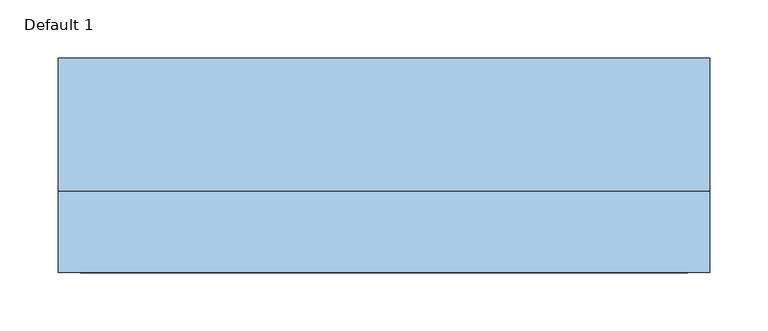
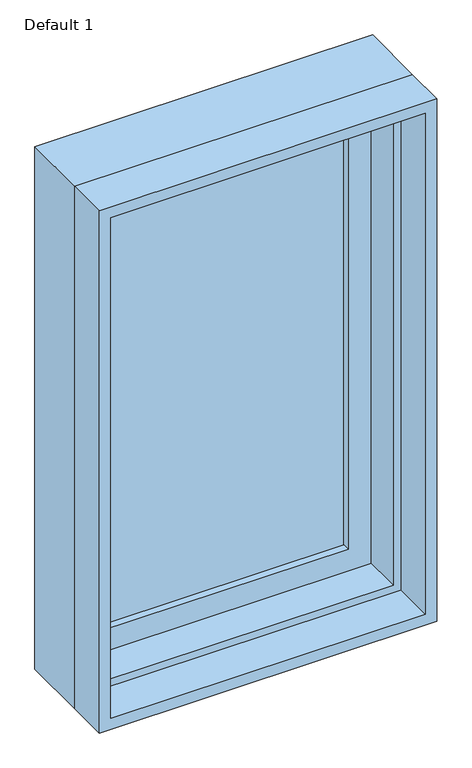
"""IFC4 building model written with IfcOpenShell, lengths in millimetres: window geometry, Planitar-Casement-Single_Left : Default 1."""

from ifc_helpers import new_model, si_unit, frame, origin, place, context, project, spatial, polyline, outline, extrude, faceted_brep, source, transform, mapped, element, save


def default_1_9abc27e4(model_context):
    return source(origin(), model_context, "Body", "SolidModel", [
        extrude(outline(polyline([(209.55, 82.55), (209.55, 76.2), (-209.55, 76.2), (-209.55, 82.55), (209.55, 82.55)])), frame((0.0, 0.0, 984.25), z_axis=(0.0, 0.0, 1.0), x_axis=(1.0, 0.0, 0.0)), (0.0, 0.0, 1.0), 774.7),
        extrude(outline(polyline([(-209.55, 63.5), (-209.55, 69.85), (209.55, 69.85), (209.55, 63.5), (-209.55, 63.5)])), frame((0.0, 0.0, 984.25), z_axis=(0.0, 0.0, 1.0), x_axis=(1.0, 0.0, 0.0)), (0.0, 0.0, 1.0), 774.7),
        extrude(outline(polyline([(1816.1, -266.7), (927.1, -266.7), (927.1, 266.7), (1816.1, 266.7), (1816.1, -266.7)]), holes=[polyline([(1758.95, 209.55), (984.25, 209.55), (984.25, -209.55), (1758.95, -209.55), (1758.95, 209.55)])]), frame((0.0, 50.8, 0.0), z_axis=(0.0, 1.0, 0.0), x_axis=(0.0, 0.0, 1.0)), (0.0, 0.0, 1.0), 44.45),
        extrude(outline(polyline([(1828.8, -279.4), (914.4, -279.4), (914.4, 279.4), (1828.8, 279.4), (1828.8, -279.4)]), holes=[polyline([(1809.75, 260.35), (933.45, 260.35), (933.45, -260.35), (1809.75, -260.35), (1809.75, 260.35)])]), frame((0.0, -82.55, 0.0), z_axis=(0.0, 1.0, 0.0), x_axis=(0.0, 0.0, 1.0)), (0.0, 0.0, 1.0), 69.85),
        faceted_brep([(247.65, 50.8, 1797.05), (247.65, -12.7, 1797.05), (-247.65, -12.7, 1797.05), (-247.65, 50.8, 1797.05), (266.7, 101.6, 1816.1), (266.7, 50.8, 1816.1), (-266.7, 50.8, 1816.1), (-266.7, 101.6, 1816.1), (279.4, -12.7, 1828.8), (279.4, 101.6, 1828.8), (-279.4, 101.6, 1828.8), (-279.4, -12.7, 1828.8), (-247.65, -12.7, 946.15), (-247.65, 50.8, 946.15), (-266.7, 50.8, 927.1), (-266.7, 101.6, 927.1), (-279.4, 101.6, 914.4), (-279.4, -12.7, 914.4), (247.65, -12.7, 946.15), (247.65, 50.8, 946.15), (266.7, 50.8, 927.1), (266.7, 101.6, 927.1), (279.4, 101.6, 914.4), (279.4, -12.7, 914.4)], [[[0, 1, 2, 3]], [[4, 5, 6, 7]], [[8, 9, 10, 11]], [[3, 2, 12, 13]], [[7, 6, 14, 15]], [[11, 10, 16, 17]], [[13, 12, 18, 19]], [[15, 14, 20, 21]], [[17, 16, 22, 23]], [[11, 17, 23, 8], [1, 18, 12, 2]], [[19, 18, 1, 0]], [[5, 20, 14, 6], [3, 13, 19, 0]], [[21, 20, 5, 4]], [[23, 22, 9, 8]], [[9, 22, 16, 10], [7, 15, 21, 4]]]),
    ])


if __name__ == "__main__":
    model = new_model("IFC4")
    model_context = context("Model", 3, world=origin())
    ifc_project = project(units=[si_unit("LENGTHUNIT", "METRE", prefix="MILLI")], contexts=[model_context])
    site = spatial("IfcSite", under=ifc_project)
    building = spatial("IfcBuilding", under=site)
    placement = place(None, origin())
    default_1_shape = default_1_9abc27e4(model_context)
    element("IfcWindow", 1, ObjectType="Planitar-Casement-Single_Left : Default 1", at=placement, inside=building, context=model_context, shape_type="MappedRepresentation", body=[
        mapped(default_1_shape, transform((0.0, 0.0, 0.0), x_axis=(1.0, 0.0, 0.0), y_axis=(0.0, 1.0, 0.0), z_axis=(0.0, 0.0, 1.0))),
    ])
    save(model, "model.ifc")
